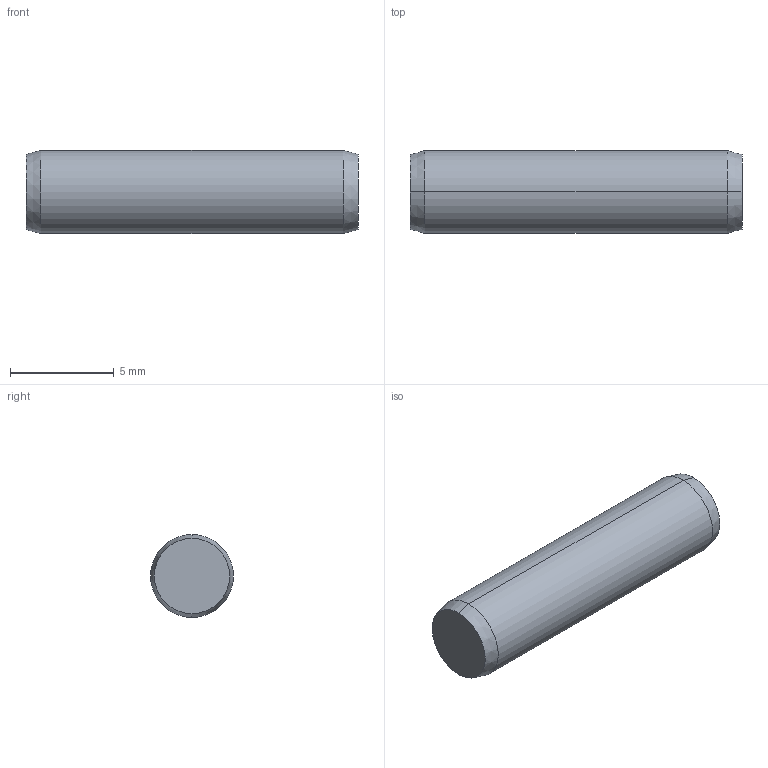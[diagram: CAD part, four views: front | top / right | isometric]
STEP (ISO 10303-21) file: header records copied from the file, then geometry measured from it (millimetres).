
FILE_DESCRIPTION (( 'STEP AP203' ), '1' );
FILE_NAME ('P1206.040-016.step', '2017-06-14T08:09:56', ( 'User' ), ( '' ), 'SwSTEP 2.0', 'SolidWorks 2009', '' );
FILE_SCHEMA (( 'CONFIG_CONTROL_DESIGN' ));
Length unit declared in the file: millimetre
Products named in the file (1): P1206.040-016
Bounding box: 16 x 4 x 4 mm (x, y, z)
Volume: 199.5 mm3; surface area: 221.5 mm2
Topology: 1 solids, 1 shells, 8 faces, 14 edges, 8 vertices
Faces by surface type: cone 4, cylinder 2, plane 2
Entity records: 271 total; most frequent: DIRECTION 40, CARTESIAN_POINT 31, ORIENTED_EDGE 28, AXIS2_PLACEMENT_3D 17, EDGE_CURVE 14, EDGE_LOOP 8, VERTEX_POINT 8, ADVANCED_FACE 8
